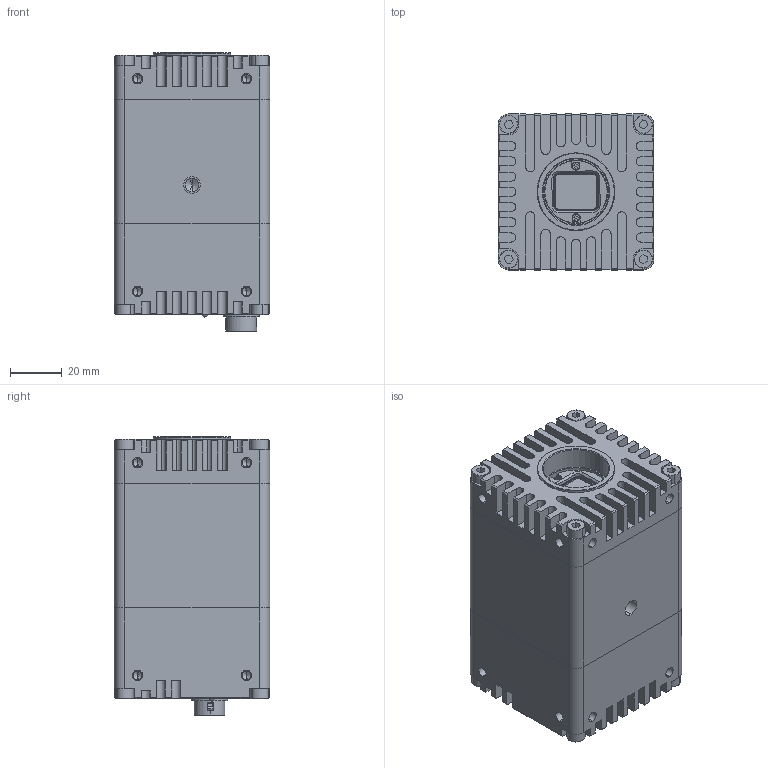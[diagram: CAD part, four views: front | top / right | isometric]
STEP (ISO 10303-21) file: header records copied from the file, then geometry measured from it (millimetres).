
FILE_DESCRIPTION (( 'STEP AP203' ), '1' );
FILE_NAME ('ORYX-001-R0.STEP', '2017-04-24T22:10:24', ( '' ), ( '' ), 'SwSTEP 2.0', 'SolidWorks 2017', '' );
FILE_SCHEMA (( 'CONFIG_CONTROL_DESIGN' ));
Products named in the file (1): ORYX-001-R0
Bounding box: 60 x 60 x 107.23 mm (x, y, z)
Volume: 334419.1 mm3; surface area: 48531.4 mm2
Topology: 1 solids, 3 shells, 2073 faces, 5812 edges, 3730 vertices
Faces by surface type: plane 1438, cylinder 408, bspline 139, cone 78, torus 8, sphere 2
Entity records: 70543 total; most frequent: CARTESIAN_POINT 18229, ORIENTED_EDGE 11544, DIRECTION 9756, EDGE_CURVE 5772, VECTOR 4470, LINE 4470, VERTEX_POINT 3730, AXIS2_PLACEMENT_3D 2643
